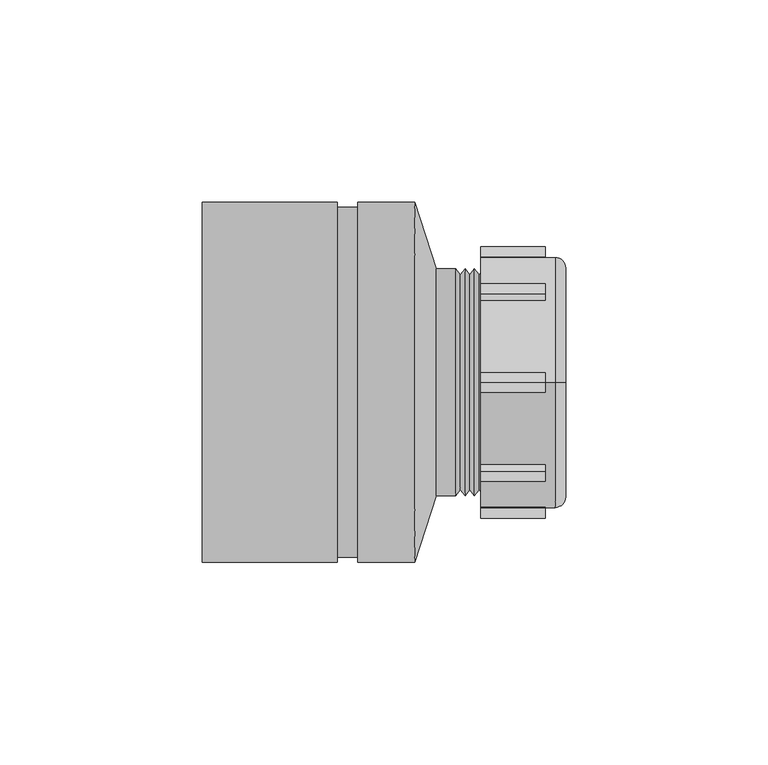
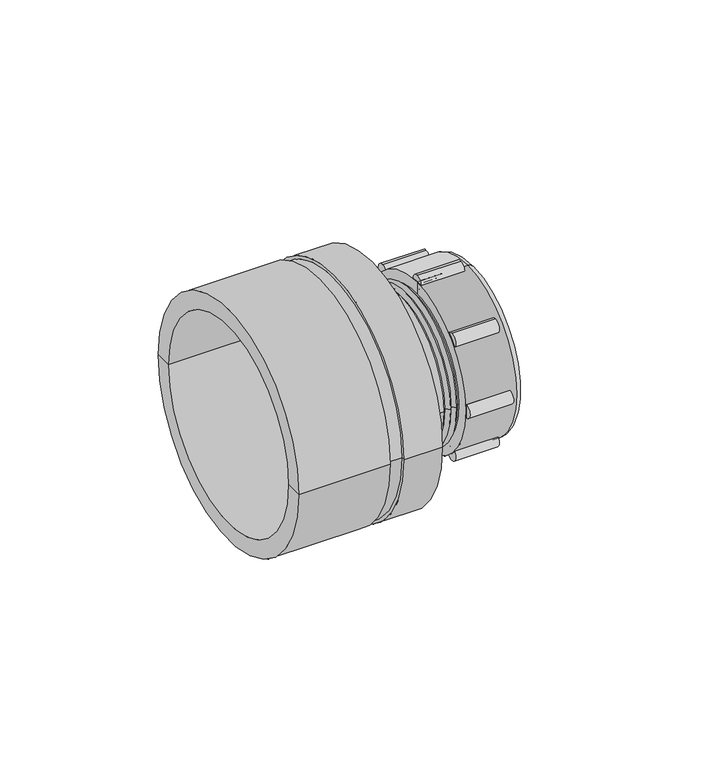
"""IFC4 building model written with IfcOpenShell, lengths in millimetres: pipe fitting geometry, Durapipe_PipeFitting_VulcatheneMechanical_ReducingCoupler_W39 : W3932_3Inxh x 2Inch_76mm x 51mm."""

from ifc_helpers import new_model, si_unit, point, frame, frame_2d, origin, place, context, project, spatial, polyline, circle_curve, ellipse_curve, trimmed, segment, composite_curve, outline, extrude, source, transform, mapped, element, save
from ifc_brep_helpers import plane_surface, cylinder_surface, revolved_surface, advanced_brep


def pipe_fitting_b207b394(model_context):
    return source(origin(), model_context, "Body", "SolidModel", [
        advanced_brep(
        [(40.65, 18.5969083, 18.5969083), (40.65, 17.1119841, 17.1119841), (40.65, -17.1119841, -17.1119841), (40.65, -18.5969083, -18.5969083), (35.65, 18.3140656, 18.3140656), (35.65, -18.3140656, -18.3140656), (34.15, 18.1019336, 18.1019336), (35.65, 18.1019336, 18.1019336), (35.65, -18.1019336, -18.1019336), (34.15, -18.1019336, -18.1019336), (34.15, -17.1119841, -17.1119841), (34.15, 17.1119841, 17.1119841), (36.15, -17.1119841, -17.1119841), (36.15, 17.1119841, 17.1119841), (36.15, -16.5462987, -16.5462987), (36.15, 16.5462987, 16.5462987), (38.45, 17.1119841, 17.1119841), (38.45, 16.5462987, 16.5462987), (38.45, -16.5462987, -16.5462987), (38.45, -17.1119841, -17.1119841)],
        [
            (0, 1),
            (1, 2, circle_curve(frame((40.65, 0.0, 0.0), z_axis=(-1.0, 0.0, 0.0), x_axis=(0.0, -0.7071067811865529, -0.7071067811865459)), 24.2)),
            (2, 3),
            (3, 0, circle_curve(frame((40.65, 0.0, 0.0), z_axis=(1.0, 0.0, 0.0), x_axis=(0.0, -0.7071067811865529, -0.7071067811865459)), 26.3)),
            (2, 1, circle_curve(frame((40.65, 0.0, 0.0), z_axis=(-1.0, 0.0, 0.0), x_axis=(0.0, -0.7071067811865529, -0.7071067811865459)), 24.2)),
            (0, 3, circle_curve(frame((40.65, 0.0, 0.0), z_axis=(1.0, 0.0, 0.0), x_axis=(0.0, -0.7071067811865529, -0.7071067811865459)), 26.3)),
            (4, 0),
            (3, 5),
            (5, 4, circle_curve(frame((35.65, 0.0, 0.0), z_axis=(1.0, 0.0, 0.0), x_axis=(0.0, -0.7071067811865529, -0.7071067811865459)), 25.9)),
            (4, 5, circle_curve(frame((35.65, 0.0, 0.0), z_axis=(1.0, 0.0, 0.0), x_axis=(0.0, -0.7071067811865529, -0.7071067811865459)), 25.9)),
            (6, 7),
            (7, 8, circle_curve(frame((35.65, 0.0, 0.0), z_axis=(-1.0, 0.0, 0.0), x_axis=(0.0, -0.7071067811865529, -0.7071067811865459)), 25.6)),
            (8, 9),
            (9, 6, circle_curve(frame((34.15, 0.0, 0.0), z_axis=(1.0, 0.0, 0.0), x_axis=(0.0, -0.7071067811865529, -0.7071067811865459)), 25.6)),
            (8, 7, circle_curve(frame((35.65, 0.0, 0.0), z_axis=(-1.0, 0.0, 0.0), x_axis=(0.0, -0.7071067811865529, -0.7071067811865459)), 25.6)),
            (6, 9, circle_curve(frame((34.15, 0.0, 0.0), z_axis=(1.0, 0.0, 0.0), x_axis=(0.0, -0.7071067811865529, -0.7071067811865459)), 25.6)),
            (9, 10),
            (10, 11, circle_curve(frame((34.15, 0.0, 0.0), z_axis=(1.0, 0.0, 0.0), x_axis=(0.0, -0.7071067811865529, -0.7071067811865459)), 24.2)),
            (11, 6),
            (11, 10, circle_curve(frame((34.15, 0.0, 0.0), z_axis=(1.0, 0.0, 0.0), x_axis=(0.0, -0.7071067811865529, -0.7071067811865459)), 24.2)),
            (10, 12),
            (12, 13, circle_curve(frame((36.15, 0.0, 0.0), z_axis=(1.0, 0.0, 0.0), x_axis=(0.0, -0.7071067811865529, -0.7071067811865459)), 24.2)),
            (13, 11),
            (13, 12, circle_curve(frame((36.15, 0.0, 0.0), z_axis=(1.0, 0.0, 0.0), x_axis=(0.0, -0.7071067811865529, -0.7071067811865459)), 24.2)),
            (12, 14),
            (14, 15, circle_curve(frame((36.15, 0.0, 0.0), z_axis=(1.0, 0.0, 0.0), x_axis=(0.0, -0.7071067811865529, -0.7071067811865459)), 23.4)),
            (15, 13),
            (15, 14, circle_curve(frame((36.15, 0.0, 0.0), z_axis=(1.0, 0.0, 0.0), x_axis=(0.0, -0.7071067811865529, -0.7071067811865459)), 23.4)),
            (16, 17),
            (17, 18, circle_curve(frame((38.45, 0.0, 0.0), z_axis=(-1.0, 0.0, 0.0), x_axis=(0.0, -0.7071067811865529, -0.7071067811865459)), 23.4)),
            (18, 19),
            (19, 16, circle_curve(frame((38.45, 0.0, 0.0), z_axis=(1.0, 0.0, 0.0), x_axis=(0.0, -0.7071067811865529, -0.7071067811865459)), 24.2)),
            (18, 17, circle_curve(frame((38.45, 0.0, 0.0), z_axis=(-1.0, 0.0, 0.0), x_axis=(0.0, -0.7071067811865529, -0.7071067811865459)), 23.4)),
            (16, 19, circle_curve(frame((38.45, 0.0, 0.0), z_axis=(1.0, 0.0, 0.0), x_axis=(0.0, -0.7071067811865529, -0.7071067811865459)), 24.2)),
            (1, 16),
            (19, 2),
            (14, 18),
            (17, 15),
            (5, 8),
            (7, 4),
        ],
        [
            plane_surface(frame((40.65, 0.0, 0.0), z_axis=(1.0, 0.0, 0.0), x_axis=(0.0, -0.707106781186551, -0.707106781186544))),
            revolved_surface(polyline([(40.65, -18.5969083, -18.5969083), (35.65, -18.3140656, -18.3140656)]), (45.65, 0.0, 0.0), (-1.0000000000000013, 0.0, 0.0)),
            cylinder_surface(frame((32.0793443, 0.0, 0.0), z_axis=(-1.0000000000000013, 0.0, 0.0), x_axis=(0.0, -0.7071067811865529, -0.7071067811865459)), 25.6),
            plane_surface(frame((34.15, 0.0, 0.0), z_axis=(-1.0, 0.0, 0.0), x_axis=(0.0, -0.707106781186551, -0.707106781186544))),
            revolved_surface(polyline([(34.150000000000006, -17.11198410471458, -17.11198410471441), (36.15000000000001, -17.11198410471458, -17.11198410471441)]), (30.657009, 0.0, 0.0), (-1.0000000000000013, 0.0, 0.0)),
            plane_surface(frame((36.15, 0.0, 0.0), z_axis=(-1.0, 0.0, 0.0), x_axis=(0.0, -0.707106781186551, -0.707106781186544))),
            plane_surface(frame((38.45, 0.0, 0.0), z_axis=(1.0, 0.0, 0.0), x_axis=(0.0, -0.707106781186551, -0.707106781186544))),
            revolved_surface(polyline([(38.44999999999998, -17.11198410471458, -17.11198410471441), (40.649999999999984, -17.11198410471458, -17.11198410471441)]), (45.65, 0.0, 0.0), (-1.0000000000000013, 0.0, 0.0)),
            revolved_surface(polyline([(36.149999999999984, -16.546298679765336, -16.546298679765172), (38.449999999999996, -16.546298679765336, -16.546298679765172)]), (42.2161924, 0.0, 0.0), (-1.0000000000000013, 0.0, 0.0)),
            plane_surface(frame((35.65, 0.0, 0.0), z_axis=(-1.0, 0.0, 0.0), x_axis=(0.0, -0.707106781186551, -0.707106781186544))),
        ],
        [
            (0, [[1, 2, 3, 4]]),
            (0, [[5, -1, 6, -3]]),
            (1, [[7, -4, 8, 9]]),
            (1, [[-8, -6, -7, 10]]),
            (2, [[11, 12, 13, 14]]),
            (2, [[15, -11, 16, -13]]),
            (3, [[17, 18, 19, -14]]),
            (3, [[-19, 20, -17, -16]]),
            (4, [[-18, 21, 22, 23]]),
            (4, [[24, -21, -20, -23]]),
            (5, [[25, 26, 27, -22]]),
            (5, [[-27, 28, -25, -24]]),
            (6, [[29, 30, 31, 32]]),
            (6, [[-31, 33, -29, 34]]),
            (7, [[35, -32, 36, -2]]),
            (7, [[-36, -34, -35, -5]]),
            (8, [[-26, 37, -30, 38]]),
            (8, [[-33, -37, -28, -38]]),
            (9, [[39, -12, 40, -9]]),
            (9, [[-40, -15, -39, -10]]),
        ],
    ),
        advanced_brep(
        [(23.95, 0.0, 31.0), (42.35, 0.0, 31.0), (42.35, 0.0, -31.0), (23.95, 0.0, -31.0), (23.95, 0.0, 26.0), (23.95, 0.0, -26.0), (44.85, 0.0, 28.5), (44.85, 0.0, 24.0), (44.85, 0.0, -24.0), (44.85, 0.0, -28.5), (40.65, 0.0, 26.0), (40.65, 0.0, -26.0), (40.65, 0.0, 24.0), (40.65, 0.0, -24.0)],
        [
            (0, 1),
            (1, 2, circle_curve(frame((42.35, 0.0, 0.0), z_axis=(-1.0, 0.0, 0.0), x_axis=(0.0, 0.0, -1.0000000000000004)), 31.0)),
            (2, 3),
            (3, 0, circle_curve(frame((23.95, 0.0, 0.0), z_axis=(1.0, 0.0, 0.0), x_axis=(0.0, 0.0, -1.0000000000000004)), 31.0)),
            (2, 1, circle_curve(frame((42.35, 0.0, 0.0), z_axis=(-1.0, 0.0, 0.0), x_axis=(0.0, 0.0, -1.0000000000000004)), 31.0)),
            (0, 3, circle_curve(frame((23.95, 0.0, 0.0), z_axis=(1.0, 0.0, 0.0), x_axis=(0.0, 0.0, -1.0000000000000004)), 31.0)),
            (4, 0),
            (3, 5),
            (5, 4, circle_curve(frame((23.95, 0.0, 0.0), z_axis=(1.0, 0.0, 0.0), x_axis=(0.0, 0.0, -1.0000000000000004)), 26.0)),
            (4, 5, circle_curve(frame((23.95, 0.0, 0.0), z_axis=(1.0, 0.0, 0.0), x_axis=(0.0, 0.0, -1.0000000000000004)), 26.0)),
            (6, 7),
            (7, 8, circle_curve(frame((44.85, 0.0, 0.0), z_axis=(-1.0, 0.0, 0.0), x_axis=(0.0, 0.0, -1.0000000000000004)), 24.0)),
            (8, 9),
            (9, 6, circle_curve(frame((44.85, 0.0, 0.0), z_axis=(1.0, 0.0, 0.0), x_axis=(0.0, 0.0, -1.0000000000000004)), 28.5)),
            (8, 7, circle_curve(frame((44.85, 0.0, 0.0), z_axis=(-1.0, 0.0, 0.0), x_axis=(0.0, 0.0, -1.0000000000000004)), 24.0)),
            (6, 9, circle_curve(frame((44.85, 0.0, 0.0), z_axis=(1.0, 0.0, 0.0), x_axis=(0.0, 0.0, -1.0000000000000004)), 28.5)),
            (1, 6, circle_curve(frame((42.35, 0.0, 28.5), z_axis=(0.0, 1.0000000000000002, 0.0), x_axis=(1.0000000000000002, 0.0, 0.0)), 2.5)),
            (9, 2, circle_curve(frame((42.35, 0.0, -28.5), z_axis=(0.0, 1.0000000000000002, 0.0), x_axis=(1.0000000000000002, 0.0, 0.0)), 2.5)),
            (10, 4),
            (5, 11),
            (11, 10, circle_curve(frame((40.65, 0.0, 0.0), z_axis=(1.0, 0.0, 0.0), x_axis=(0.0, 0.0, -1.0000000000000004)), 26.0)),
            (10, 11, circle_curve(frame((40.65, 0.0, 0.0), z_axis=(1.0, 0.0, 0.0), x_axis=(0.0, 0.0, -1.0000000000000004)), 26.0)),
            (12, 10),
            (11, 13),
            (13, 12, circle_curve(frame((40.65, 0.0, 0.0), z_axis=(1.0, 0.0, 0.0), x_axis=(0.0, 0.0, -1.0000000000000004)), 24.0)),
            (12, 13, circle_curve(frame((40.65, 0.0, 0.0), z_axis=(1.0, 0.0, 0.0), x_axis=(0.0, 0.0, -1.0000000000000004)), 24.0)),
            (7, 12),
            (13, 8),
        ],
        [
            cylinder_surface(frame((1605.6518184, 0.0, 0.0), z_axis=(-1.0000000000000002, 0.0, 0.0), x_axis=(0.0, 0.0, -1.0000000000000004)), 31.0),
            plane_surface(frame((23.95, 0.0, 0.0), z_axis=(-1.0, 0.0, 0.0), x_axis=(0.0, 0.0, -1.0))),
            plane_surface(frame((44.85, 0.0, 0.0), z_axis=(1.0, 0.0, 0.0), x_axis=(0.0, 0.0, -1.0))),
            revolved_surface(trimmed(ellipse_curve(frame((42.35, 0.0, -28.5), z_axis=(0.0, 1.0000000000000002, 0.0), x_axis=(1.0000000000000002, 0.0, 0.0)), 2.5, 2.5), [point((44.85, 0.0, -28.5))], [point((42.35, 0.0, -31.0))], True, "CARTESIAN"), (1605.6518184, 0.0, 0.0), (-1.0000000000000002, 0.0, 0.0)),
            revolved_surface(polyline([(23.949999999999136, 0.0, -26.00000000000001), (40.64999999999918, 0.0, -26.00000000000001)]), (1605.6518184, 0.0, 0.0), (-1.0000000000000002, 0.0, 0.0)),
            plane_surface(frame((40.65, 0.0, 0.0), z_axis=(-1.0, 0.0, 0.0), x_axis=(0.0, 0.0, -1.0))),
            revolved_surface(polyline([(40.64999999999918, 0.0, -24.00000000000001), (44.849999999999, 0.0, -24.00000000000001)]), (1605.6518184, 0.0, 0.0), (-1.0000000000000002, 0.0, 0.0)),
        ],
        [
            (0, [[1, 2, 3, 4]]),
            (0, [[-3, 5, -1, 6]]),
            (1, [[7, -4, 8, 9]]),
            (1, [[-8, -6, -7, 10]]),
            (2, [[11, 12, 13, 14]]),
            (2, [[-13, 15, -11, 16]]),
            (3, [[17, -14, 18, -2]]),
            (3, [[-18, -16, -17, -5]]),
            (4, [[19, -9, 20, 21]]),
            (4, [[-20, -10, -19, 22]]),
            (5, [[23, -21, 24, 25]]),
            (5, [[-24, -22, -23, 26]]),
            (6, [[27, -25, 28, -12]]),
            (6, [[-28, -26, -27, -15]]),
        ],
    ),
        extrude(outline(composite_curve([segment(trimmed(circle_curve(frame_2d((-31.0, 0.0)), 2.5), [point((-31.0, 2.5))], [point((-31.0, -2.5))], False, "CARTESIAN"), True, "CONTINUOUS"), segment(trimmed(circle_curve(frame_2d((-31.0, 0.0)), 2.5), [point((-31.0, -2.5))], [point((-31.0, 2.5))], False, "CARTESIAN"), True, "CONTINUOUS")], self_intersect=False)), frame((23.95, 0.0, 0.0), z_axis=(1.0, 0.0, 0.0), x_axis=(0.0, 1.0, 0.0)), (0.0, 0.0, 1.0), 15.9),
        extrude(outline(composite_curve([segment(trimmed(circle_curve(frame_2d((-21.9203102, -21.9203102)), 2.5), [point((-21.9203102, -19.4203102))], [point((-21.9203102, -24.4203102))], False, "CARTESIAN"), True, "CONTINUOUS"), segment(trimmed(circle_curve(frame_2d((-21.9203102, -21.9203102)), 2.5), [point((-21.9203102, -24.4203102))], [point((-21.9203102, -19.4203102))], False, "CARTESIAN"), True, "CONTINUOUS")], self_intersect=False)), frame((23.95, 0.0, 0.0), z_axis=(1.0, 0.0, 0.0), x_axis=(0.0, 1.0, 0.0)), (0.0, 0.0, 1.0), 15.9),
        extrude(outline(composite_curve([segment(trimmed(circle_curve(frame_2d((0.0, -31.0)), 2.5), [point((0.0, -28.5))], [point((0.0, -33.5))], False, "CARTESIAN"), True, "CONTINUOUS"), segment(trimmed(circle_curve(frame_2d((0.0, -31.0)), 2.5), [point((0.0, -33.5))], [point((0.0, -28.5))], False, "CARTESIAN"), True, "CONTINUOUS")], self_intersect=False)), frame((23.95, 0.0, 0.0), z_axis=(1.0, 0.0, 0.0), x_axis=(0.0, 1.0, 0.0)), (0.0, 0.0, 1.0), 15.9),
        extrude(outline(composite_curve([segment(trimmed(circle_curve(frame_2d((21.9203102, -21.9203102)), 2.5), [point((21.9203102, -19.4203102))], [point((21.9203102, -24.4203102))], False, "CARTESIAN"), True, "CONTINUOUS"), segment(trimmed(circle_curve(frame_2d((21.9203102, -21.9203102)), 2.5), [point((21.9203102, -24.4203102))], [point((21.9203102, -19.4203102))], False, "CARTESIAN"), True, "CONTINUOUS")], self_intersect=False)), frame((23.95, 0.0, 0.0), z_axis=(1.0, 0.0, 0.0), x_axis=(0.0, 1.0, 0.0)), (0.0, 0.0, 1.0), 15.9),
        extrude(outline(composite_curve([segment(trimmed(circle_curve(frame_2d((31.0, 0.0)), 2.5), [point((31.0, 2.5))], [point((31.0, -2.5))], False, "CARTESIAN"), True, "CONTINUOUS"), segment(trimmed(circle_curve(frame_2d((31.0, 0.0)), 2.5), [point((31.0, -2.5))], [point((31.0, 2.5))], False, "CARTESIAN"), True, "CONTINUOUS")], self_intersect=False)), frame((23.95, 0.0, 0.0), z_axis=(1.0, 0.0, 0.0), x_axis=(0.0, 1.0, 0.0)), (0.0, 0.0, 1.0), 15.9),
        extrude(outline(composite_curve([segment(trimmed(circle_curve(frame_2d((21.9203102, 21.9203102)), 2.5), [point((21.9203102, 24.4203102))], [point((21.9203102, 19.4203102))], False, "CARTESIAN"), True, "CONTINUOUS"), segment(trimmed(circle_curve(frame_2d((21.9203102, 21.9203102)), 2.5), [point((21.9203102, 19.4203102))], [point((21.9203102, 24.4203102))], False, "CARTESIAN"), True, "CONTINUOUS")], self_intersect=False)), frame((23.95, 0.0, 0.0), z_axis=(1.0, 0.0, 0.0), x_axis=(0.0, 1.0, 0.0)), (0.0, 0.0, 1.0), 15.9),
        extrude(outline(composite_curve([segment(trimmed(circle_curve(frame_2d((0.0, 31.0)), 2.5), [point((0.0, 33.5))], [point((0.0, 28.5))], False, "CARTESIAN"), True, "CONTINUOUS"), segment(trimmed(circle_curve(frame_2d((0.0, 31.0)), 2.5), [point((0.0, 28.5))], [point((0.0, 33.5))], False, "CARTESIAN"), True, "CONTINUOUS")], self_intersect=False)), frame((23.95, 0.0, 0.0), z_axis=(1.0, 0.0, 0.0), x_axis=(0.0, 1.0, 0.0)), (0.0, 0.0, 1.0), 15.9),
        extrude(outline(composite_curve([segment(trimmed(circle_curve(frame_2d((-21.9203102, 21.9203102)), 2.5), [point((-21.9203102, 24.4203102))], [point((-21.9203102, 19.4203102))], False, "CARTESIAN"), True, "CONTINUOUS"), segment(trimmed(circle_curve(frame_2d((-21.9203102, 21.9203102)), 2.5), [point((-21.9203102, 19.4203102))], [point((-21.9203102, 24.4203102))], False, "CARTESIAN"), True, "CONTINUOUS")], self_intersect=False)), frame((23.95, 0.0, 0.0), z_axis=(1.0, 0.0, 0.0), x_axis=(0.0, 1.0, 0.0)), (0.0, 0.0, 1.0), 15.9),
        advanced_brep(
        [(-44.85, -38.1, 0.0), (-44.85, 38.1, 0.0), (-44.85, 44.45, 0.0), (-44.85, -44.45, 0.0), (3.57, -38.1, 0.0), (3.57, 38.1, 0.0), (9.9258302, -20.6375, 0.0), (9.9258302, 20.6375, 0.0), (15.094, -20.6375, 0.0), (15.094, 20.6375, 0.0), (15.094, -24.2697, 0.0), (15.094, 24.2697, 0.0), (23.9668642, -24.2697, 0.0), (23.9668642, 24.2697, 0.0), (23.9668642, -27.1838736, 0.0), (23.9668642, 27.1838736, 0.0), (23.4727273, -26.5547244, 0.0), (23.4727273, 26.5547244, 0.0), (22.3181818, -28.0247244, 0.0), (22.3181818, 28.0247244, 0.0), (21.1636364, -26.5547244, 0.0), (21.1636364, 26.5547244, 0.0), (20.0090909, -28.0247244, 0.0), (20.0090909, 28.0247244, 0.0), (18.8545455, -26.5547244, 0.0), (18.8545455, 26.5547244, 0.0), (17.7, -28.0247244, 0.0), (17.7, 28.0247244, 0.0), (12.8743956, -28.0247244, 0.0), (12.8743956, 28.0247244, 0.0), (7.5375, -44.45, 0.0), (7.5375, 44.45, 0.0), (-6.4325, -44.45, 0.0), (-6.4325, 44.45, 0.0), (-6.4325, -43.2181, 0.0), (-6.4325, 43.2181, 0.0), (-11.5125, -43.2181, 0.0), (-11.5125, 43.2181, 0.0), (-11.5125, -44.45, 0.0), (-11.5125, 44.45, 0.0)],
        [
            (0, 1, circle_curve(frame((-44.85, 0.0, 0.0), z_axis=(1.0, 0.0, 0.0), x_axis=(0.0, 1.0, 0.0)), 38.1)),
            (1, 2),
            (2, 3, circle_curve(frame((-44.85, 0.0, 0.0), z_axis=(-1.0, 0.0, 0.0), x_axis=(0.0, 1.0, 0.0)), 44.45)),
            (3, 0),
            (1, 0, circle_curve(frame((-44.85, 0.0, 0.0), z_axis=(1.0, 0.0, 0.0), x_axis=(0.0, 1.0, 0.0)), 38.1)),
            (3, 2, circle_curve(frame((-44.85, 0.0, 0.0), z_axis=(-1.0, 0.0, 0.0), x_axis=(0.0, 1.0, 0.0)), 44.45)),
            (4, 5, circle_curve(frame((3.57, 0.0, 0.0), z_axis=(1.0, 0.0, 0.0), x_axis=(0.0, 1.0, 0.0)), 38.1)),
            (5, 1),
            (0, 4),
            (5, 4, circle_curve(frame((3.57, 0.0, 0.0), z_axis=(1.0, 0.0, 0.0), x_axis=(0.0, 1.0, 0.0)), 38.1)),
            (6, 7, circle_curve(frame((9.9258302, 0.0, 0.0), z_axis=(1.0, 0.0, 0.0), x_axis=(0.0, 1.0, 0.0)), 20.6375)),
            (7, 5),
            (4, 6),
            (7, 6, circle_curve(frame((9.9258302, 0.0, 0.0), z_axis=(1.0, 0.0, 0.0), x_axis=(0.0, 1.0, 0.0)), 20.6375)),
            (8, 9, circle_curve(frame((15.094, 0.0, 0.0), z_axis=(1.0, 0.0, 0.0), x_axis=(0.0, 1.0, 0.0)), 20.6375)),
            (9, 7),
            (6, 8),
            (9, 8, circle_curve(frame((15.094, 0.0, 0.0), z_axis=(1.0, 0.0, 0.0), x_axis=(0.0, 1.0, 0.0)), 20.6375)),
            (10, 11, circle_curve(frame((15.094, 0.0, 0.0), z_axis=(1.0, 0.0, 0.0), x_axis=(0.0, 1.0, 0.0)), 24.2697)),
            (11, 9),
            (8, 10),
            (11, 10, circle_curve(frame((15.094, 0.0, 0.0), z_axis=(1.0, 0.0, 0.0), x_axis=(0.0, 1.0, 0.0)), 24.2697)),
            (12, 13, circle_curve(frame((23.9668642, 0.0, 0.0), z_axis=(1.0, 0.0, 0.0), x_axis=(0.0, 1.0, 0.0)), 24.2697)),
            (13, 11),
            (10, 12),
            (13, 12, circle_curve(frame((23.9668642, 0.0, 0.0), z_axis=(1.0, 0.0, 0.0), x_axis=(0.0, 1.0, 0.0)), 24.2697)),
            (14, 15, circle_curve(frame((23.9668642, 0.0, 0.0), z_axis=(1.0, 0.0, 0.0), x_axis=(0.0, 1.0, 0.0)), 27.1838736)),
            (15, 13),
            (12, 14),
            (15, 14, circle_curve(frame((23.9668642, 0.0, 0.0), z_axis=(1.0, 0.0, 0.0), x_axis=(0.0, 1.0, 0.0)), 27.1838736)),
            (16, 17, circle_curve(frame((23.4727273, 0.0, 0.0), z_axis=(1.0, 0.0, 0.0), x_axis=(0.0, 1.0, 0.0)), 26.5547244)),
            (17, 15),
            (14, 16),
            (17, 16, circle_curve(frame((23.4727273, 0.0, 0.0), z_axis=(1.0, 0.0, 0.0), x_axis=(0.0, 1.0, 0.0)), 26.5547244)),
            (18, 19, circle_curve(frame((22.3181818, 0.0, 0.0), z_axis=(1.0, 0.0, 0.0), x_axis=(0.0, 1.0, 0.0)), 28.0247244)),
            (19, 17),
            (16, 18),
            (19, 18, circle_curve(frame((22.3181818, 0.0, 0.0), z_axis=(1.0, 0.0, 0.0), x_axis=(0.0, 1.0, 0.0)), 28.0247244)),
            (20, 21, circle_curve(frame((21.1636364, 0.0, 0.0), z_axis=(1.0, 0.0, 0.0), x_axis=(0.0, 1.0, 0.0)), 26.5547244)),
            (21, 19),
            (18, 20),
            (21, 20, circle_curve(frame((21.1636364, 0.0, 0.0), z_axis=(1.0, 0.0, 0.0), x_axis=(0.0, 1.0, 0.0)), 26.5547244)),
            (22, 23, circle_curve(frame((20.0090909, 0.0, 0.0), z_axis=(1.0, 0.0, 0.0), x_axis=(0.0, 1.0, 0.0)), 28.0247244)),
            (23, 21),
            (20, 22),
            (23, 22, circle_curve(frame((20.0090909, 0.0, 0.0), z_axis=(1.0, 0.0, 0.0), x_axis=(0.0, 1.0, 0.0)), 28.0247244)),
            (24, 25, circle_curve(frame((18.8545455, 0.0, 0.0), z_axis=(1.0, 0.0, 0.0), x_axis=(0.0, 1.0, 0.0)), 26.5547244)),
            (25, 23),
            (22, 24),
            (25, 24, circle_curve(frame((18.8545455, 0.0, 0.0), z_axis=(1.0, 0.0, 0.0), x_axis=(0.0, 1.0, 0.0)), 26.5547244)),
            (26, 27, circle_curve(frame((17.7, 0.0, 0.0), z_axis=(1.0, 0.0, 0.0), x_axis=(0.0, 1.0, 0.0)), 28.0247244)),
            (27, 25),
            (24, 26),
            (27, 26, circle_curve(frame((17.7, 0.0, 0.0), z_axis=(1.0, 0.0, 0.0), x_axis=(0.0, 1.0, 0.0)), 28.0247244)),
            (28, 29, circle_curve(frame((12.8743956, 0.0, 0.0), z_axis=(1.0, 0.0, 0.0), x_axis=(0.0, 1.0, 0.0)), 28.0247244)),
            (29, 27),
            (26, 28),
            (29, 28, circle_curve(frame((12.8743956, 0.0, 0.0), z_axis=(1.0, 0.0, 0.0), x_axis=(0.0, 1.0, 0.0)), 28.0247244)),
            (30, 31, circle_curve(frame((7.5375, 0.0, 0.0), z_axis=(1.0, 0.0, 0.0), x_axis=(0.0, 1.0, 0.0)), 44.45)),
            (31, 29),
            (28, 30),
            (31, 30, circle_curve(frame((7.5375, 0.0, 0.0), z_axis=(1.0, 0.0, 0.0), x_axis=(0.0, 1.0, 0.0)), 44.45)),
            (32, 33, circle_curve(frame((-6.4325, 0.0, 0.0), z_axis=(1.0, 0.0, 0.0), x_axis=(0.0, 1.0, 0.0)), 44.45)),
            (33, 31),
            (30, 32),
            (33, 32, circle_curve(frame((-6.4325, 0.0, 0.0), z_axis=(1.0, 0.0, 0.0), x_axis=(0.0, 1.0, 0.0)), 44.45)),
            (34, 35, circle_curve(frame((-6.4325, 0.0, 0.0), z_axis=(1.0, 0.0, 0.0), x_axis=(0.0, 1.0, 0.0)), 43.2181)),
            (35, 33),
            (32, 34),
            (35, 34, circle_curve(frame((-6.4325, 0.0, 0.0), z_axis=(1.0, 0.0, 0.0), x_axis=(0.0, 1.0, 0.0)), 43.2181)),
            (36, 37, circle_curve(frame((-11.5125, 0.0, 0.0), z_axis=(1.0, 0.0, 0.0), x_axis=(0.0, 1.0, 0.0)), 43.2181)),
            (37, 35),
            (34, 36),
            (37, 36, circle_curve(frame((-11.5125, 0.0, 0.0), z_axis=(1.0, 0.0, 0.0), x_axis=(0.0, 1.0, 0.0)), 43.2181)),
            (38, 39, circle_curve(frame((-11.5125, 0.0, 0.0), z_axis=(1.0, 0.0, 0.0), x_axis=(0.0, 1.0, 0.0)), 44.45)),
            (39, 37),
            (36, 38),
            (39, 38, circle_curve(frame((-11.5125, 0.0, 0.0), z_axis=(1.0, 0.0, 0.0), x_axis=(0.0, 1.0, 0.0)), 44.45)),
            (2, 39),
            (38, 3),
        ],
        [
            plane_surface(frame((-44.85, 0.0, 0.0), z_axis=(-1.0, 0.0, 0.0), x_axis=(0.0, 1.0, 0.0))),
            revolved_surface(polyline([(-44.85, 38.1, 0.0), (3.5700000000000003, 38.1, 0.0)]), (-42.755389, 0.0, 0.0), (-1.0, 0.0, 0.0)),
            revolved_surface(polyline([(3.57, 38.1, 0.0), (9.9258302, 20.6375, 0.0)]), (-42.755389, 0.0, 0.0), (-1.0, 0.0, 0.0)),
            revolved_surface(polyline([(9.9258302, 20.6375, 0.0), (15.094000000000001, 20.6375, 0.0)]), (-42.755389, 0.0, 0.0), (-1.0, 0.0, 0.0)),
            plane_surface(frame((15.094, 0.0, 0.0), z_axis=(1.0, 0.0, 0.0), x_axis=(0.0, 1.0, 0.0))),
            revolved_surface(polyline([(15.094000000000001, 24.2697, 0.0), (23.966864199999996, 24.2697, 0.0)]), (-42.755389, 0.0, 0.0), (-1.0, 0.0, 0.0)),
            plane_surface(frame((23.9668642, 0.0, 0.0), z_axis=(1.0, 0.0, 0.0), x_axis=(0.0, 1.0, 0.0))),
            revolved_surface(polyline([(23.9668642, 27.1838736, 0.0), (23.4727273, 26.5547244, 0.0)]), (-42.755389, 0.0, 0.0), (-1.0, 0.0, 0.0)),
            revolved_surface(polyline([(23.4727273, 26.5547244, 0.0), (22.3181818, 28.0247244, 0.0)]), (-42.755389, 0.0, 0.0), (-1.0, 0.0, 0.0)),
            revolved_surface(polyline([(22.3181818, 28.0247244, 0.0), (21.1636364, 26.5547244, 0.0)]), (-42.755389, 0.0, 0.0), (-1.0, 0.0, 0.0)),
            revolved_surface(polyline([(21.1636364, 26.5547244, 0.0), (20.0090909, 28.0247244, 0.0)]), (-42.755389, 0.0, 0.0), (-1.0, 0.0, 0.0)),
            revolved_surface(polyline([(20.0090909, 28.0247244, 0.0), (18.8545455, 26.5547244, 0.0)]), (-42.755389, 0.0, 0.0), (-1.0, 0.0, 0.0)),
            revolved_surface(polyline([(18.8545455, 26.5547244, 0.0), (17.7, 28.0247244, 0.0)]), (-42.755389, 0.0, 0.0), (-1.0, 0.0, 0.0)),
            cylinder_surface(frame((-42.755389, 0.0, 0.0), z_axis=(-1.0, 0.0, 0.0), x_axis=(0.0, 1.0, 0.0)), 28.0247244),
            revolved_surface(polyline([(12.8743956, 28.0247244, 0.0), (7.5375, 44.45, 0.0)]), (-42.755389, 0.0, 0.0), (-1.0, 0.0, 0.0)),
            cylinder_surface(frame((-42.755389, 0.0, 0.0), z_axis=(-1.0, 0.0, 0.0), x_axis=(0.0, 1.0, 0.0)), 44.45),
            plane_surface(frame((-6.4325, 0.0, 0.0), z_axis=(-1.0, 0.0, 0.0), x_axis=(0.0, 1.0, 0.0))),
            cylinder_surface(frame((-42.755389, 0.0, 0.0), z_axis=(-1.0, 0.0, 0.0), x_axis=(0.0, 1.0, 0.0)), 43.2181),
            plane_surface(frame((-11.5125, 0.0, 0.0), z_axis=(1.0, 0.0, 0.0), x_axis=(0.0, 1.0, 0.0))),
        ],
        [
            (0, [[1, 2, 3, 4]]),
            (0, [[5, -4, 6, -2]]),
            (1, [[7, 8, -1, 9]]),
            (1, [[10, -9, -5, -8]]),
            (2, [[11, 12, -7, 13]]),
            (2, [[14, -13, -10, -12]]),
            (3, [[15, 16, -11, 17]]),
            (3, [[18, -17, -14, -16]]),
            (4, [[19, 20, -15, 21]]),
            (4, [[22, -21, -18, -20]]),
            (5, [[23, 24, -19, 25]]),
            (5, [[26, -25, -22, -24]]),
            (6, [[27, 28, -23, 29]]),
            (6, [[30, -29, -26, -28]]),
            (7, [[31, 32, -27, 33]]),
            (7, [[34, -33, -30, -32]]),
            (8, [[35, 36, -31, 37]]),
            (8, [[38, -37, -34, -36]]),
            (9, [[39, 40, -35, 41]]),
            (9, [[42, -41, -38, -40]]),
            (10, [[43, 44, -39, 45]]),
            (10, [[46, -45, -42, -44]]),
            (11, [[47, 48, -43, 49]]),
            (11, [[50, -49, -46, -48]]),
            (12, [[51, 52, -47, 53]]),
            (12, [[54, -53, -50, -52]]),
            (13, [[55, 56, -51, 57]]),
            (13, [[58, -57, -54, -56]]),
            (14, [[59, 60, -55, 61]]),
            (14, [[62, -61, -58, -60]]),
            (15, [[63, 64, -59, 65]]),
            (15, [[66, -65, -62, -64]]),
            (16, [[67, 68, -63, 69]]),
            (16, [[70, -69, -66, -68]]),
            (17, [[71, 72, -67, 73]]),
            (17, [[74, -73, -70, -72]]),
            (18, [[75, 76, -71, 77]]),
            (18, [[78, -77, -74, -76]]),
            (15, [[-3, 79, -75, 80]]),
            (15, [[-6, -80, -78, -79]]),
        ],
    ),
    ])


if __name__ == "__main__":
    model = new_model("IFC4")
    model_context = context("Model", 3, world=origin())
    ifc_project = project(units=[si_unit("LENGTHUNIT", "METRE", prefix="MILLI")], contexts=[model_context])
    site = spatial("IfcSite", under=ifc_project)
    building = spatial("IfcBuilding", under=site)
    placement = place(None, origin())
    pipe_fitting_shape = pipe_fitting_b207b394(model_context)
    element("IfcPipeFitting", 1, ObjectType="Durapipe_PipeFitting_VulcatheneMechanical_ReducingCoupler_W39 : W3932_3Inxh x 2Inch_76mm x 51mm", at=placement, inside=building, context=model_context, shape_type="MappedRepresentation", body=[
        mapped(pipe_fitting_shape, transform((0.0, 0.0, 0.0), x_axis=(1.0, 0.0, 0.0), y_axis=(0.0, 1.0, 0.0), z_axis=(0.0, 0.0, 1.0))),
    ])
    save(model, "model.ifc")
